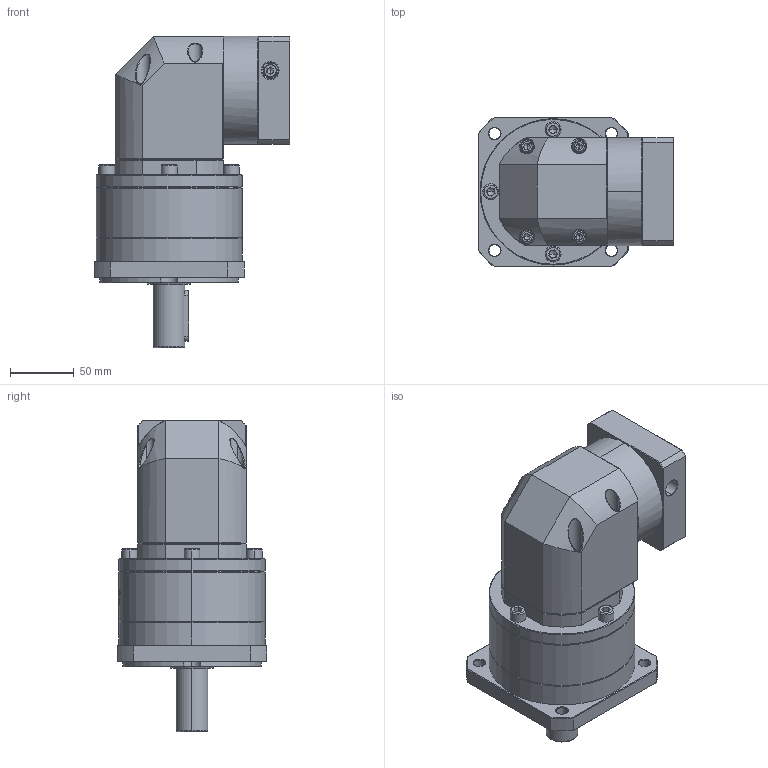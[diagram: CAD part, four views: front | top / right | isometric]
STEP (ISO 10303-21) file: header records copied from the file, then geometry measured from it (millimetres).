
FILE_DESCRIPTION (( 'STEP AP214' ), '1' );
FILE_NAME ('ZFR120A-D25-L2-P2-16-80-100-M6.step', '2023-08-27T09:16:05', ( '' ), ( '' ), 'SwSTEP 2.0', 'SolidWorks 2016', '' );
FILE_SCHEMA (( 'AUTOMOTIVE_DESIGN' ));
Length unit declared in the file: millimetre
Products named in the file (1): ZFR120A-D25-L2-P2-16-80-100-M6
Bounding box: 154.1 x 118 x 245 mm (x, y, z)
Volume: 1853230.2 mm3; surface area: 171325.1 mm2
Topology: 6 solids, 6 shells, 2398 faces, 6265 edges, 3975 vertices
Faces by surface type: plane 1153, cylinder 455, bspline 443, cone 333, torus 14
Entity records: 129849 total; most frequent: CARTESIAN_POINT 50274, ORIENTED_EDGE 12438, DIRECTION 9177, EDGE_CURVE 6219, VERTEX_POINT 3975, VECTOR 3333, LINE 3333, AXIS2_PLACEMENT_3D 2922
